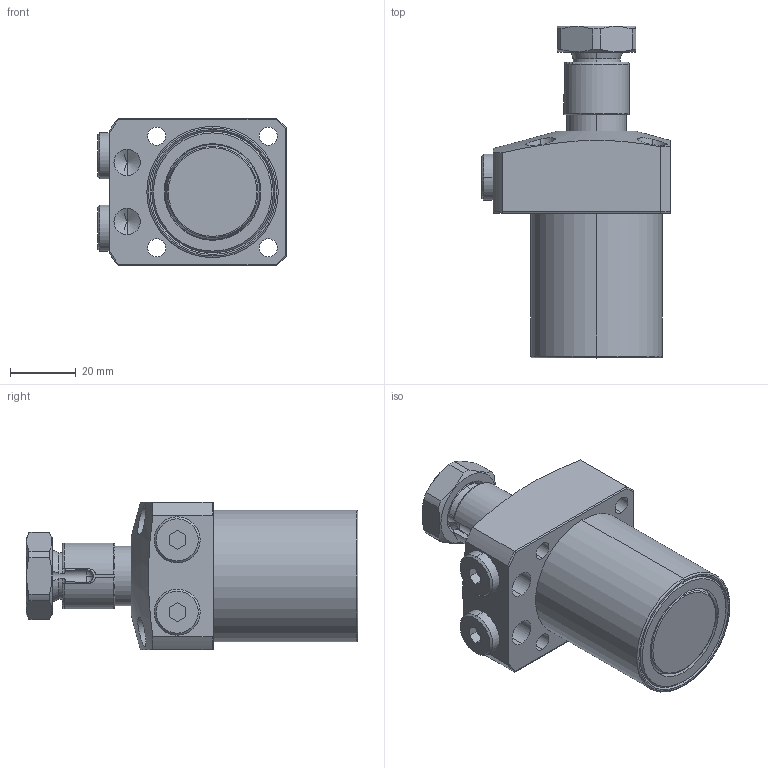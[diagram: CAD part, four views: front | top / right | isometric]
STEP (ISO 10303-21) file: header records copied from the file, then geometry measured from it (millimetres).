
FILE_DESCRIPTION (( 'STEP AP203' ), '1' );
FILE_NAME ('20300-CR.step', '2019-06-24T02:56:32', ( '微软用户' ), ( '微软中国' ), 'SwSTEP 2.0', 'SolidWorks 2014', '' );
FILE_SCHEMA (( 'CONFIG_CONTROL_DESIGN' ));
Length unit declared in the file: millimetre
Products named in the file (7): 20300-3^20300-CR; 20300-4^20300-CR; 20300-5^20300-CR; 20300-C-P-4^20300-CR; 20300-CR; 20300-1^20300-CR; 20300-2^20300-CR
Assembly tree (7 placements, depth 2):
  20300-CR
    20300-1^20300-CR
    20300-2^20300-CR
    20300-3^20300-CR
    20300-4^20300-CR
    20300-5^20300-CR
    20300-C-P-4^20300-CR  x2
Bounding box: 57.5 x 101 x 45 mm (x, y, z)
Volume: 120646.2 mm3; surface area: 26748.7 mm2
Topology: 7 solids, 9 shells, 209 faces, 490 edges, 307 vertices
Faces by surface type: plane 78, cylinder 70, cone 41, torus 18, sphere 2
Entity records: 6979 total; most frequent: CARTESIAN_POINT 1725, DIRECTION 974, ORIENTED_EDGE 912, EDGE_CURVE 456, AXIS2_PLACEMENT_3D 396, VERTEX_POINT 289, EDGE_LOOP 219, ADVANCED_FACE 196
